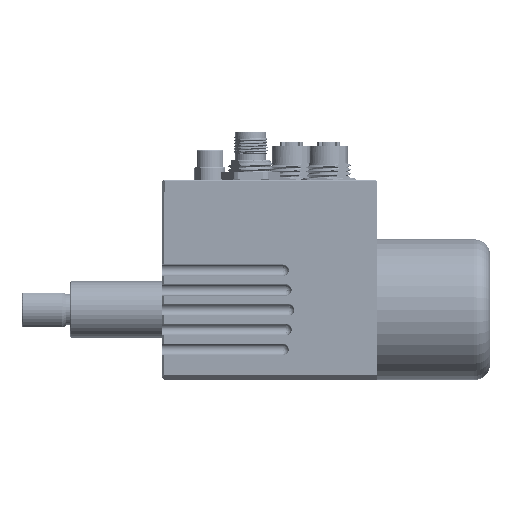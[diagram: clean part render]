
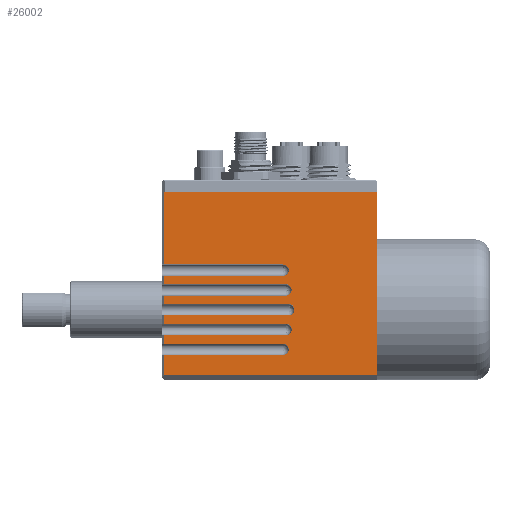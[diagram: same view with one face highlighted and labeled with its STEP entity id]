
A CAD part, front view. The second image highlights one B-rep face of the part: STEP entity #26002.
In plain terms, the highlighted planar face has unit normal (0, -1, 0).
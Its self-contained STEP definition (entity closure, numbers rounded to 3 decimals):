
#1018=PLANE('',#28587);
#3776=FACE_OUTER_BOUND('',#5433,.T.);
#5433=EDGE_LOOP('',(#23583,#23584,#23585,#23586,#23587,#23588,#23589,#23590,
#23591,#23592,#23593,#23594,#23595,#23596,#23597,#23598,#23599,#23600,#23601,
#23602,#23603,#23604,#23605,#23606));
#6727=CIRCLE('',#28588,2.);
#6728=CIRCLE('',#28589,2.);
#6729=CIRCLE('',#28590,2.);
#6730=CIRCLE('',#28591,2.);
#6731=CIRCLE('',#28592,2.);
#8171=LINE('',#80478,#9576);
#8177=LINE('',#80489,#9582);
#8228=LINE('',#80649,#9633);
#8229=LINE('',#80652,#9634);
#8232=LINE('',#80658,#9637);
#8233=LINE('',#80660,#9638);
#8234=LINE('',#80662,#9639);
#8235=LINE('',#80664,#9640);
#8236=LINE('',#80668,#9641);
#8237=LINE('',#80670,#9642);
#8238=LINE('',#80672,#9643);
#8239=LINE('',#80675,#9644);
#8240=LINE('',#80679,#9645);
#8241=LINE('',#80681,#9646);
#8242=LINE('',#80683,#9647);
#8243=LINE('',#80687,#9648);
#8244=LINE('',#80689,#9649);
#8245=LINE('',#80691,#9650);
#8246=LINE('',#80694,#9651);
#9576=VECTOR('',#34612,10.);
#9582=VECTOR('',#34620,10.);
#9633=VECTOR('',#34733,10.);
#9634=VECTOR('',#34736,10.);
#9637=VECTOR('',#34741,10.);
#9638=VECTOR('',#34742,10.);
#9639=VECTOR('',#34743,10.);
#9640=VECTOR('',#34744,10.);
#9641=VECTOR('',#34747,10.);
#9642=VECTOR('',#34748,10.);
#9643=VECTOR('',#34749,10.);
#9644=VECTOR('',#34752,10.);
#9645=VECTOR('',#34755,10.);
#9646=VECTOR('',#34756,10.);
#9647=VECTOR('',#34757,10.);
#9648=VECTOR('',#34760,10.);
#9649=VECTOR('',#34761,10.);
#9650=VECTOR('',#34762,10.);
#9651=VECTOR('',#34765,10.);
#12165=VERTEX_POINT('',#80475);
#12166=VERTEX_POINT('',#80477);
#12170=VERTEX_POINT('',#80487);
#12247=VERTEX_POINT('',#80645);
#12248=VERTEX_POINT('',#80647);
#12249=VERTEX_POINT('',#80651);
#12251=VERTEX_POINT('',#80657);
#12252=VERTEX_POINT('',#80659);
#12253=VERTEX_POINT('',#80661);
#12254=VERTEX_POINT('',#80663);
#12255=VERTEX_POINT('',#80665);
#12256=VERTEX_POINT('',#80667);
#12257=VERTEX_POINT('',#80669);
#12258=VERTEX_POINT('',#80671);
#12259=VERTEX_POINT('',#80674);
#12260=VERTEX_POINT('',#80676);
#12261=VERTEX_POINT('',#80678);
#12262=VERTEX_POINT('',#80680);
#12263=VERTEX_POINT('',#80682);
#12264=VERTEX_POINT('',#80684);
#12265=VERTEX_POINT('',#80686);
#12266=VERTEX_POINT('',#80688);
#12267=VERTEX_POINT('',#80690);
#12268=VERTEX_POINT('',#80692);
#15972=EDGE_CURVE('',#12165,#12166,#8171,.T.);
#15978=EDGE_CURVE('',#12170,#12165,#8177,.T.);
#16058=EDGE_CURVE('',#12248,#12247,#8228,.T.);
#16059=EDGE_CURVE('',#12249,#12247,#8229,.T.);
#16062=EDGE_CURVE('',#12251,#12170,#8232,.T.);
#16063=EDGE_CURVE('',#12252,#12251,#8233,.T.);
#16064=EDGE_CURVE('',#12253,#12252,#8234,.T.);
#16065=EDGE_CURVE('',#12253,#12254,#8235,.T.);
#16066=EDGE_CURVE('',#12254,#12255,#6727,.T.);
#16067=EDGE_CURVE('',#12255,#12256,#8236,.T.);
#16068=EDGE_CURVE('',#12257,#12256,#8237,.T.);
#16069=EDGE_CURVE('',#12257,#12258,#8238,.T.);
#16070=EDGE_CURVE('',#12258,#12249,#6728,.T.);
#16071=EDGE_CURVE('',#12248,#12259,#8239,.T.);
#16072=EDGE_CURVE('',#12259,#12260,#6729,.T.);
#16073=EDGE_CURVE('',#12260,#12261,#8240,.T.);
#16074=EDGE_CURVE('',#12262,#12261,#8241,.T.);
#16075=EDGE_CURVE('',#12262,#12263,#8242,.T.);
#16076=EDGE_CURVE('',#12263,#12264,#6730,.T.);
#16077=EDGE_CURVE('',#12264,#12265,#8243,.T.);
#16078=EDGE_CURVE('',#12266,#12265,#8244,.T.);
#16079=EDGE_CURVE('',#12266,#12267,#8245,.T.);
#16080=EDGE_CURVE('',#12267,#12268,#6731,.T.);
#16081=EDGE_CURVE('',#12268,#12166,#8246,.T.);
#23583=ORIENTED_EDGE('',*,*,#15972,.F.);
#23584=ORIENTED_EDGE('',*,*,#15978,.F.);
#23585=ORIENTED_EDGE('',*,*,#16062,.F.);
#23586=ORIENTED_EDGE('',*,*,#16063,.F.);
#23587=ORIENTED_EDGE('',*,*,#16064,.F.);
#23588=ORIENTED_EDGE('',*,*,#16065,.T.);
#23589=ORIENTED_EDGE('',*,*,#16066,.T.);
#23590=ORIENTED_EDGE('',*,*,#16067,.T.);
#23591=ORIENTED_EDGE('',*,*,#16068,.F.);
#23592=ORIENTED_EDGE('',*,*,#16069,.T.);
#23593=ORIENTED_EDGE('',*,*,#16070,.T.);
#23594=ORIENTED_EDGE('',*,*,#16059,.T.);
#23595=ORIENTED_EDGE('',*,*,#16058,.F.);
#23596=ORIENTED_EDGE('',*,*,#16071,.T.);
#23597=ORIENTED_EDGE('',*,*,#16072,.T.);
#23598=ORIENTED_EDGE('',*,*,#16073,.T.);
#23599=ORIENTED_EDGE('',*,*,#16074,.F.);
#23600=ORIENTED_EDGE('',*,*,#16075,.T.);
#23601=ORIENTED_EDGE('',*,*,#16076,.T.);
#23602=ORIENTED_EDGE('',*,*,#16077,.T.);
#23603=ORIENTED_EDGE('',*,*,#16078,.F.);
#23604=ORIENTED_EDGE('',*,*,#16079,.T.);
#23605=ORIENTED_EDGE('',*,*,#16080,.T.);
#23606=ORIENTED_EDGE('',*,*,#16081,.T.);
#26002=ADVANCED_FACE('',(#3776),#1018,.T.);
#28587=AXIS2_PLACEMENT_3D('',#80656,#34739,#34740);
#28588=AXIS2_PLACEMENT_3D('',#80666,#34745,#34746);
#28589=AXIS2_PLACEMENT_3D('',#80673,#34750,#34751);
#28590=AXIS2_PLACEMENT_3D('',#80677,#34753,#34754);
#28591=AXIS2_PLACEMENT_3D('',#80685,#34758,#34759);
#28592=AXIS2_PLACEMENT_3D('',#80693,#34763,#34764);
#34612=DIRECTION('',(0.,0.,1.));
#34620=DIRECTION('',(-1.,0.,0.));
#34733=DIRECTION('',(0.,0.,1.));
#34736=DIRECTION('',(-1.,0.,0.));
#34739=DIRECTION('center_axis',(0.,-1.,0.));
#34740=DIRECTION('ref_axis',(0.,0.,-1.));
#34741=DIRECTION('',(0.,0.,-1.));
#34742=DIRECTION('',(1.,0.,0.));
#34743=DIRECTION('',(0.,0.,1.));
#34744=DIRECTION('',(1.,0.,0.));
#34745=DIRECTION('center_axis',(0.,1.,0.));
#34746=DIRECTION('ref_axis',(0.,0.,
-1.));
#34747=DIRECTION('',(-1.,0.,0.));
#34748=DIRECTION('',(0.,0.,1.));
#34749=DIRECTION('',(1.,0.,0.));
#34750=DIRECTION('center_axis',(0.,1.,0.));
#34751=DIRECTION('ref_axis',(0.,0.,
-1.));
#34752=DIRECTION('',(1.,0.,0.));
#34753=DIRECTION('center_axis',(0.,1.,0.));
#34754=DIRECTION('ref_axis',(0.,0.,-1.));
#34755=DIRECTION('',(-1.,0.,0.));
#34756=DIRECTION('',(0.,0.,1.));
#34757=DIRECTION('',(1.,0.,0.));
#34758=DIRECTION('center_axis',(0.,1.,0.));
#34759=DIRECTION('ref_axis',(0.,0.,
-1.));
#34760=DIRECTION('',(-1.,0.,0.));
#34761=DIRECTION('',(0.,0.,1.));
#34762=DIRECTION('',(1.,0.,0.));
#34763=DIRECTION('center_axis',(0.,1.,0.));
#34764=DIRECTION('ref_axis',(0.,0.,
-1.));
#34765=DIRECTION('',(-1.,0.,0.));
#80475=CARTESIAN_POINT('',(0.8,-25.,-23.));
#80477=CARTESIAN_POINT('',(0.8,-25.,-16.));
#80478=CARTESIAN_POINT('',(0.8,-25.,20.75));
#80487=CARTESIAN_POINT('',(76.,-25.,-23.));
#80489=CARTESIAN_POINT('',(0.,-25.,-23.));
#80645=CARTESIAN_POINT('',(0.8,-25.,5.));
#80647=CARTESIAN_POINT('',(0.8,-25.,2.));
#80649=CARTESIAN_POINT('',(0.8,-25.,20.75));
#80651=CARTESIAN_POINT('',(43.8,-25.,5.));
#80652=CARTESIAN_POINT('',(21.9,-25.,5.));
#80656=CARTESIAN_POINT('Origin',(0.,-25.,41.5));
#80657=CARTESIAN_POINT('',(76.,-25.,41.5));
#80658=CARTESIAN_POINT('',(76.,-25.,-25.));
#80659=CARTESIAN_POINT('',(0.8,-25.,41.5));
#80660=CARTESIAN_POINT('',(0.,-25.,41.5));
#80661=CARTESIAN_POINT('',(0.8,-25.,16.));
#80662=CARTESIAN_POINT('',(0.8,-25.,20.75));
#80663=CARTESIAN_POINT('',(42.8,-25.,16.));
#80664=CARTESIAN_POINT('',(-2.6,-25.,16.));
#80665=CARTESIAN_POINT('',(42.8,-25.,12.));
#80666=CARTESIAN_POINT('Origin',(42.8,-25.,14.));
#80667=CARTESIAN_POINT('',(0.8,-25.,12.));
#80668=CARTESIAN_POINT('',(21.4,-25.,12.));
#80669=CARTESIAN_POINT('',(0.8,-25.,9.));
#80670=CARTESIAN_POINT('',(0.8,-25.,20.75));
#80671=CARTESIAN_POINT('',(43.8,-25.,9.));
#80672=CARTESIAN_POINT('',(-3.1,-25.,9.));
#80673=CARTESIAN_POINT('Origin',(43.8,-25.,7.));
#80674=CARTESIAN_POINT('',(44.8,-25.,2.));
#80675=CARTESIAN_POINT('',(-3.6,-25.,2.));
#80676=CARTESIAN_POINT('',(44.8,-25.,-2.));
#80677=CARTESIAN_POINT('Origin',(44.8,-25.,0.));
#80678=CARTESIAN_POINT('',(0.8,-25.,-2.));
#80679=CARTESIAN_POINT('',(22.4,-25.,-2.));
#80680=CARTESIAN_POINT('',(0.8,-25.,-5.));
#80681=CARTESIAN_POINT('',(0.8,-25.,20.75));
#80682=CARTESIAN_POINT('',(43.8,-25.,-5.));
#80683=CARTESIAN_POINT('',(-3.1,-25.,-5.));
#80684=CARTESIAN_POINT('',(43.8,-25.,-9.));
#80685=CARTESIAN_POINT('Origin',(43.8,-25.,-7.));
#80686=CARTESIAN_POINT('',(0.8,-25.,-9.));
#80687=CARTESIAN_POINT('',(21.9,-25.,-9.));
#80688=CARTESIAN_POINT('',(0.8,-25.,-12.));
#80689=CARTESIAN_POINT('',(0.8,-25.,20.75));
#80690=CARTESIAN_POINT('',(42.8,-25.,-12.));
#80691=CARTESIAN_POINT('',(-2.6,-25.,-12.));
#80692=CARTESIAN_POINT('',(42.8,-25.,-16.));
#80693=CARTESIAN_POINT('Origin',(42.8,-25.,-14.));
#80694=CARTESIAN_POINT('',(21.4,-25.,-16.));
